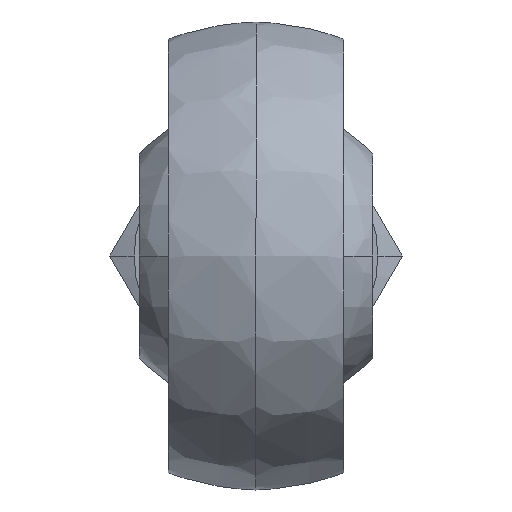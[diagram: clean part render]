
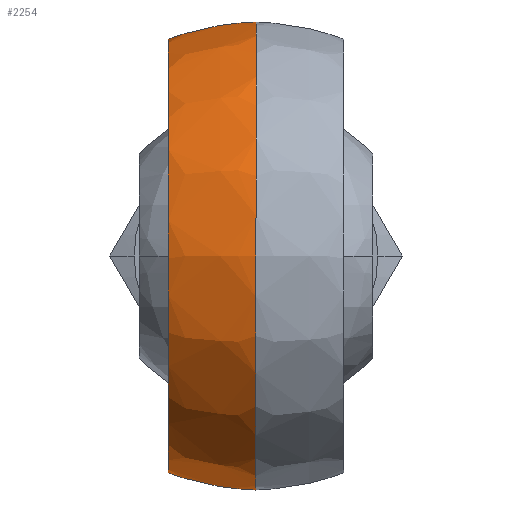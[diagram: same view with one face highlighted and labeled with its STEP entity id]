
A CAD part, left-side view. The second image highlights one B-rep face of the part: STEP entity #2254.
In plain terms, the highlighted free-form (B-spline) face has degree [12, 5] with [13, 6] control points.
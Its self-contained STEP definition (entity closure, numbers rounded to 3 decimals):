
#321=CARTESIAN_POINT('',(7.054,4.5,-8.602));
#631=CARTESIAN_POINT('',(0.,0.,
0.));
#632=DIRECTION('',(0.,-1.,0.));
#633=DIRECTION('',(0.,0.,1.));
#634=AXIS2_PLACEMENT_3D('',#631,#632,#633);
#636=CARTESIAN_POINT('',(7.054,0.,0.));
#637=DIRECTION('',(1.,0.,0.));
#638=DIRECTION('',(0.,0.,-1.));
#639=AXIS2_PLACEMENT_3D('',#636,#637,#638);
#641=CARTESIAN_POINT('',(7.054,0.,0.));
#642=DIRECTION('',(1.,0.,0.));
#643=DIRECTION('',(0.,0.464,0.886));
#644=AXIS2_PLACEMENT_3D('',#641,#642,#643);
#646=CARTESIAN_POINT('',(0.,0.,
0.));
#647=DIRECTION('',(0.,-1.,0.));
#648=DIRECTION('',(0.588,0.,0.809));
#649=AXIS2_PLACEMENT_3D('',#646,#647,#648);
#661=CARTESIAN_POINT('',(0.,0.,0.));
#662=DIRECTION('',(0.,1.,0.));
#663=DIRECTION('',(0.588,0.,-0.809));
#664=AXIS2_PLACEMENT_3D('',#661,#662,#663);
#666=CARTESIAN_POINT('',(0.,0.,0.));
#667=DIRECTION('',(0.,1.,0.));
#668=DIRECTION('',(0.,0.,-1.));
#669=AXIS2_PLACEMENT_3D('',#666,#667,#668);
#671=CARTESIAN_POINT('',(0.,4.5,0.));
#672=DIRECTION('',(0.,-1.,0.));
#673=DIRECTION('',(0.634,0.,0.773));
#674=AXIS2_PLACEMENT_3D('',#671,#672,#673);
#676=CARTESIAN_POINT('',(0.,4.5,0.));
#677=DIRECTION('',(0.,-1.,0.));
#678=DIRECTION('',(-0.634,0.,-0.773));
#679=AXIS2_PLACEMENT_3D('',#676,#677,#678);
#818=CARTESIAN_POINT('',(7.053,0.,9.708));
#819=VERTEX_POINT('',#818);
#820=CARTESIAN_POINT('',(7.054,4.5,8.602));
#821=VERTEX_POINT('',#820);
#822=VERTEX_POINT('',#321);
#823=CARTESIAN_POINT('',(7.054,0.,
-9.708));
#824=VERTEX_POINT('',#823);
#832=CARTESIAN_POINT('',(0.,0.,
-12.));
#833=VERTEX_POINT('',#832);
#834=CARTESIAN_POINT('',(-12.,0.,0.));
#835=VERTEX_POINT('',#834);
#836=CARTESIAN_POINT('',(0.,0.,
12.));
#837=VERTEX_POINT('',#836);
#918=CARTESIAN_POINT('',(-7.053,4.5,-8.602));
#919=VERTEX_POINT('',#918);
#2159=CARTESIAN_POINT('',(7.776,4.585,7.906));
#2160=CARTESIAN_POINT('',(8.033,3.699,8.168));
#2161=CARTESIAN_POINT('',(8.228,2.776,8.366));
#2162=CARTESIAN_POINT('',(8.357,1.827,8.497));
#2163=CARTESIAN_POINT('',(8.419,0.867,8.561));
#2164=CARTESIAN_POINT('',(8.414,-0.092,
8.555));
#2165=CARTESIAN_POINT('',(4.682,4.585,10.949));
#2166=CARTESIAN_POINT('',(4.837,3.699,11.311));
#2167=CARTESIAN_POINT('',(4.955,2.776,11.585));
#2168=CARTESIAN_POINT('',(5.033,1.827,11.767));
#2169=CARTESIAN_POINT('',(5.07,0.867,11.855));
#2170=CARTESIAN_POINT('',(5.066,-0.092,
11.848));
#2171=CARTESIAN_POINT('',(0.289,4.585,12.671));
#2172=CARTESIAN_POINT('',(0.321,3.699,13.112));
#2173=CARTESIAN_POINT('',(0.34,2.776,13.441));
#2174=CARTESIAN_POINT('',(0.345,1.827,13.652));
#2175=CARTESIAN_POINT('',(0.335,0.867,
13.742));
#2176=CARTESIAN_POINT('',(0.313,-0.092,
13.711));
#2177=CARTESIAN_POINT('',(-4.782,4.585,12.463));
#2178=CARTESIAN_POINT('',(-5.075,3.699,12.751));
#2179=CARTESIAN_POINT('',(-5.275,2.776,13.007));
#2180=CARTESIAN_POINT('',(-5.357,1.827,13.213));
#2181=CARTESIAN_POINT('',(-5.316,0.867,
13.367));
#2182=CARTESIAN_POINT('',(-5.175,-0.092,
13.486));
#2183=CARTESIAN_POINT('',(-9.594,4.585,10.037));
#2184=CARTESIAN_POINT('',(-9.508,3.699,10.663));
#2185=CARTESIAN_POINT('',(-9.505,2.776,11.045));
#2186=CARTESIAN_POINT('',(-9.659,1.827,11.215));
#2187=CARTESIAN_POINT('',(-9.974,0.867,
11.17));
#2188=CARTESIAN_POINT('',(-10.382,-0.092,
10.861));
#2189=CARTESIAN_POINT('',(-13.08,4.585,5.619));
#2190=CARTESIAN_POINT('',(-14.239,3.699,5.506));
#2191=CARTESIAN_POINT('',(-15.008,2.776,5.516));
#2192=CARTESIAN_POINT('',(-15.236,1.827,5.606));
#2193=CARTESIAN_POINT('',(-14.908,0.867,
5.777));
#2194=CARTESIAN_POINT('',(-14.153,-0.092,
6.08));
#2195=CARTESIAN_POINT('',(-14.359,4.585,
0.));
#2196=CARTESIAN_POINT('',(-13.959,3.699,
0.));
#2197=CARTESIAN_POINT('',(-13.787,2.776,
0.));
#2198=CARTESIAN_POINT('',(-14.013,1.827,
0.));
#2199=CARTESIAN_POINT('',(-14.65,0.867,
0.));
#2200=CARTESIAN_POINT('',(-15.538,-0.092,
0.));
#2201=CARTESIAN_POINT('',(-13.08,4.585,
-5.619));
#2202=CARTESIAN_POINT('',(-14.239,3.699,
-5.506));
#2203=CARTESIAN_POINT('',(-15.008,2.776,
-5.516));
#2204=CARTESIAN_POINT('',(-15.236,1.827,
-5.606));
#2205=CARTESIAN_POINT('',(-14.908,0.867,
-5.777));
#2206=CARTESIAN_POINT('',(-14.153,-0.092,
-6.08));
#2207=CARTESIAN_POINT('',(-9.594,4.585,
-10.037));
#2208=CARTESIAN_POINT('',(-9.508,3.699,
-10.663));
#2209=CARTESIAN_POINT('',(-9.505,2.776,
-11.045));
#2210=CARTESIAN_POINT('',(-9.659,1.827,
-11.215));
#2211=CARTESIAN_POINT('',(-9.974,0.867,
-11.17));
#2212=CARTESIAN_POINT('',(-10.382,-0.092,
-10.861));
#2213=CARTESIAN_POINT('',(-4.782,4.585,
-12.463));
#2214=CARTESIAN_POINT('',(-5.075,3.699,
-12.751));
#2215=CARTESIAN_POINT('',(-5.275,2.776,
-13.007));
#2216=CARTESIAN_POINT('',(-5.357,1.827,
-13.213));
#2217=CARTESIAN_POINT('',(-5.316,0.867,
-13.367));
#2218=CARTESIAN_POINT('',(-5.175,-0.092,
-13.486));
#2219=CARTESIAN_POINT('',(0.289,4.585,
-12.671));
#2220=CARTESIAN_POINT('',(0.321,3.699,
-13.112));
#2221=CARTESIAN_POINT('',(0.34,2.776,
-13.441));
#2222=CARTESIAN_POINT('',(0.345,1.827,
-13.652));
#2223=CARTESIAN_POINT('',(0.335,0.867,
-13.742));
#2224=CARTESIAN_POINT('',(0.313,-0.092,
-13.711));
#2225=CARTESIAN_POINT('',(4.682,4.585,-10.949));
#2226=CARTESIAN_POINT('',(4.837,3.699,-11.311));
#2227=CARTESIAN_POINT('',(4.955,2.776,-11.585));
#2228=CARTESIAN_POINT('',(5.033,1.827,-11.767));
#2229=CARTESIAN_POINT('',(5.07,0.867,
-11.855));
#2230=CARTESIAN_POINT('',(5.066,-0.092,
-11.848));
#2231=CARTESIAN_POINT('',(7.776,4.585,-7.906));
#2232=CARTESIAN_POINT('',(8.033,3.699,-8.168));
#2233=CARTESIAN_POINT('',(8.228,2.776,-8.366));
#2234=CARTESIAN_POINT('',(8.357,1.827,-8.497));
#2235=CARTESIAN_POINT('',(8.419,0.867,
-8.561));
#2236=CARTESIAN_POINT('',(8.414,-0.092,
-8.555));
#2237=B_SPLINE_SURFACE_WITH_KNOTS('',12,5,((#2159,#2160,#2161,#2162,#2163,
#2164),(#2165,#2166,#2167,#2168,#2169,#2170),(#2171,#2172,#2173,#2174,#2175,
#2176),(#2177,#2178,#2179,#2180,#2181,#2182),(#2183,#2184,#2185,#2186,#2187,
#2188),(#2189,#2190,#2191,#2192,#2193,#2194),(#2195,#2196,#2197,#2198,#2199,
#2200),(#2201,#2202,#2203,#2204,#2205,#2206),(#2207,#2208,#2209,#2210,#2211,
#2212),(#2213,#2214,#2215,#2216,#2217,#2218),(#2219,#2220,#2221,#2222,#2223,
#2224),(#2225,#2226,#2227,#2228,#2229,#2230),(#2231,#2232,#2233,#2234,#2235,
#2236)),.UNSPECIFIED.,.F.,.F.,.F.,(13,13),(6,6),(0.,
4.696),(-0.392,0.008),.UNSPECIFIED.);
#2239=ORIENTED_EDGE('',*,*,#2238,.T.);
#2241=ORIENTED_EDGE('',*,*,#2240,.F.);
#2243=ORIENTED_EDGE('',*,*,#2242,.F.);
#2244=ORIENTED_EDGE('',*,*,#1663,.T.);
#2246=ORIENTED_EDGE('',*,*,#2245,.F.);
#2248=ORIENTED_EDGE('',*,*,#2247,.F.);
#2249=ORIENTED_EDGE('',*,*,#1659,.T.);
#2251=ORIENTED_EDGE('',*,*,#2250,.T.);
#2252=EDGE_LOOP('',(#2239,#2241,#2243,#2244,#2246,#2248,#2249,#2251));
#2253=FACE_OUTER_BOUND('',#2252,.F.);
#2254=ADVANCED_FACE('',(#2253),#2237,.T.);
#635=CIRCLE('',#634,12.);
#640=CIRCLE('',#639,9.708);
#645=CIRCLE('',#644,9.708);
#650=CIRCLE('',#649,12.);
#665=CIRCLE('',#664,12.);
#670=CIRCLE('',#669,12.);
#675=CIRCLE('',#674,11.124);
#680=CIRCLE('',#679,11.124);
#1659=EDGE_CURVE('',#821,#819,#645,.T.);
#1663=EDGE_CURVE('',#824,#822,#640,.T.);
#2238=EDGE_CURVE('',#837,#835,#635,.T.);
#2240=EDGE_CURVE('',#833,#835,#670,.T.);
#2242=EDGE_CURVE('',#824,#833,#665,.T.);
#2245=EDGE_CURVE('',#919,#822,#680,.T.);
#2247=EDGE_CURVE('',#821,#919,#675,.T.);
#2250=EDGE_CURVE('',#819,#837,#650,.T.);
